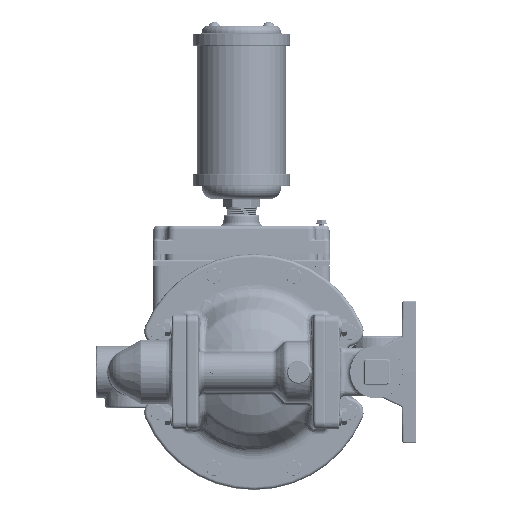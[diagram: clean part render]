
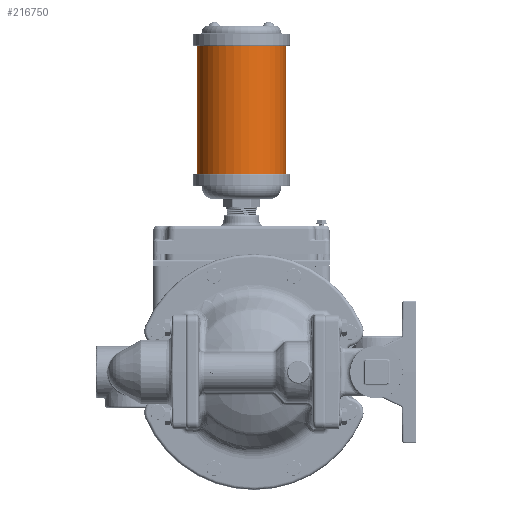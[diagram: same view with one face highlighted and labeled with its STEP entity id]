
A CAD part, left-side view. The second image highlights one B-rep face of the part: STEP entity #216750.
In plain terms, the highlighted cylindrical face has radius 39.243 mm (diameter 78.486 mm), a partial arc.
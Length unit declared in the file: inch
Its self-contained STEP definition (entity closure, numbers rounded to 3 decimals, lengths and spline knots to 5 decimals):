
#43272=DIRECTION('',(0.,0.,1.));
#43273=VECTOR('',#43272,4.479);
#43274=CARTESIAN_POINT('',(0.,1.98,6.951));
#43275=LINE('',#43274,#43273);
#43276=DIRECTION('',(0.,0.,1.));
#43277=VECTOR('',#43276,4.479);
#43278=CARTESIAN_POINT('',(0.,-1.11,6.951));
#43279=LINE('',#43278,#43277);
#43280=CARTESIAN_POINT('',(0.,0.435,6.951));
#43281=DIRECTION('',(0.,0.,1.));
#43282=DIRECTION('',(0.,1.,0.));
#43283=AXIS2_PLACEMENT_3D('',#43280,#43281,#43282);
#43305=CARTESIAN_POINT('',(0.,0.435,11.43));
#43306=DIRECTION('',(0.,0.,1.));
#43307=DIRECTION('',(0.,1.,0.));
#43308=AXIS2_PLACEMENT_3D('',#43305,#43306,#43307);
#133359=CARTESIAN_POINT('',(0.,1.98,6.951));
#133360=CARTESIAN_POINT('',(0.,1.98,11.43));
#133361=VERTEX_POINT('',#133359);
#133362=VERTEX_POINT('',#133360);
#133363=CARTESIAN_POINT('',(0.,-1.11,6.951));
#133364=CARTESIAN_POINT('',(0.,-1.11,11.43));
#133365=VERTEX_POINT('',#133363);
#133366=VERTEX_POINT('',#133364);
#216736=CARTESIAN_POINT('',(0.,0.435,12.455));
#216737=DIRECTION('',(0.,0.,-1.));
#216738=DIRECTION('',(0.,-1.,0.));
#216739=AXIS2_PLACEMENT_3D('',#216736,#216737,#216738);
#216740=CYLINDRICAL_SURFACE('',#216739,1.545);
#216742=ORIENTED_EDGE('',*,*,#216741,.T.);
#216744=ORIENTED_EDGE('',*,*,#216743,.T.);
#216746=ORIENTED_EDGE('',*,*,#216745,.F.);
#216747=ORIENTED_EDGE('',*,*,#216717,.F.);
#216748=EDGE_LOOP('',(#216742,#216744,#216746,#216747));
#216749=FACE_OUTER_BOUND('',#216748,.F.);
#216750=ADVANCED_FACE('',(#216749),#216740,.T.);
#43284=CIRCLE('',#43283,1.545);
#43309=CIRCLE('',#43308,1.545);
#216717=EDGE_CURVE('',#133361,#133365,#43284,.T.);
#216741=EDGE_CURVE('',#133361,#133362,#43275,.T.);
#216743=EDGE_CURVE('',#133362,#133366,#43309,.T.);
#216745=EDGE_CURVE('',#133365,#133366,#43279,.T.);
